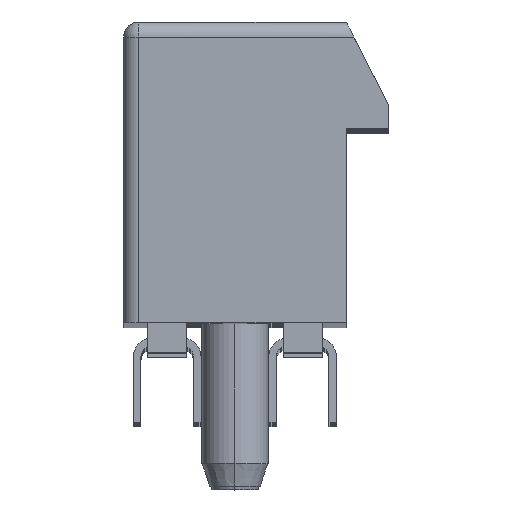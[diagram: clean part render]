
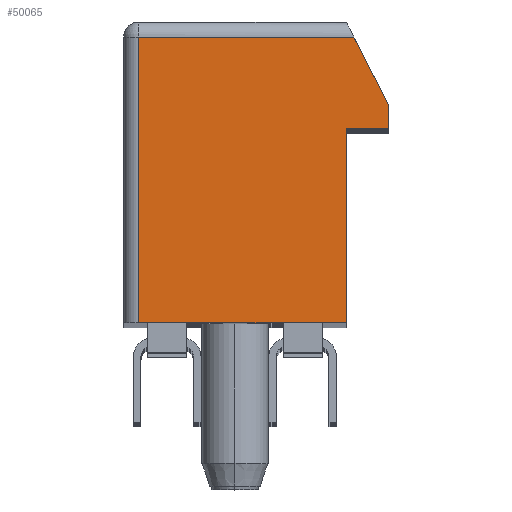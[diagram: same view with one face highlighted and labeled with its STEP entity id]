
A CAD part, top view. The second image highlights one B-rep face of the part: STEP entity #50065.
In plain terms, the highlighted planar face has unit normal (0, 0, 1).
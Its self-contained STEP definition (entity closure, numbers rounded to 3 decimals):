
#439 = LINE ( 'NONE', #8722, #55121 ) ;
#1614 = CARTESIAN_POINT ( 'NONE',  ( -3.2, 0., 89. ) ) ;
#3581 = VERTEX_POINT ( 'NONE', #53765 ) ;
#4085 = ORIENTED_EDGE ( 'NONE', *, *, #23530, .T. ) ;
#4360 = DIRECTION ( 'NONE',  ( -0.454, 0.891, 0. ) ) ;
#4420 = CARTESIAN_POINT ( 'NONE',  ( -3.2, 0., 89. ) ) ;
#5432 = DIRECTION ( 'NONE',  ( -1., 0., 0. ) ) ;
#6430 = VERTEX_POINT ( 'NONE', #14349 ) ;
#6636 = CARTESIAN_POINT ( 'NONE',  ( 0., 0., 89. ) ) ;
#7979 = CARTESIAN_POINT ( 'NONE',  ( 5.1, 6.45, 89. ) ) ;
#8122 = DIRECTION ( 'NONE',  ( 1., 0., 0. ) ) ;
#8413 = ORIENTED_EDGE ( 'NONE', *, *, #45531, .T. ) ;
#8416 = LINE ( 'NONE', #45164, #47309 ) ;
#8570 = VERTEX_POINT ( 'NONE', #7979 ) ;
#8722 = CARTESIAN_POINT ( 'NONE',  ( -3.7, 0., 89. ) ) ;
#9303 = VECTOR ( 'NONE', #56820, 1000. ) ;
#9693 = ORIENTED_EDGE ( 'NONE', *, *, #22394, .T. ) ;
#9765 = DIRECTION ( 'NONE',  ( 0., -1., 0. ) ) ;
#11722 = ORIENTED_EDGE ( 'NONE', *, *, #16820, .T. ) ;
#11954 = PLANE ( 'NONE',  #67655 ) ;
#14349 = CARTESIAN_POINT ( 'NONE',  ( 3.7, 6.45, 89. ) ) ;
#14557 = VECTOR ( 'NONE', #59947, 1000. ) ;
#14995 = CARTESIAN_POINT ( 'NONE',  ( 3.7, 10., 89. ) ) ;
#16820 = EDGE_CURVE ( 'NONE', #60335, #67821, #439, .T. ) ;
#17259 = DIRECTION ( 'NONE',  ( 1., 0., 0. ) ) ;
#18811 = CARTESIAN_POINT ( 'NONE',  ( 3.7, 0., 89. ) ) ;
#19429 = VECTOR ( 'NONE', #9765, 1000. ) ;
#22394 = EDGE_CURVE ( 'NONE', #67821, #6430, #58445, .T. ) ;
#23376 = CARTESIAN_POINT ( 'NONE',  ( -3.2, 9.5, 89. ) ) ;
#23426 = VECTOR ( 'NONE', #5432, 1000. ) ;
#23530 = EDGE_CURVE ( 'NONE', #67323, #29404, #25092, .T. ) ;
#25092 = LINE ( 'NONE', #52897, #23426 ) ;
#25362 = LINE ( 'NONE', #14995, #37789 ) ;
#29404 = VERTEX_POINT ( 'NONE', #23376 ) ;
#35217 = LINE ( 'NONE', #4420, #19429 ) ;
#37789 = VECTOR ( 'NONE', #4360, 1000. ) ;
#38901 = CARTESIAN_POINT ( 'NONE',  ( 3.7, 6.45, 89. ) ) ;
#40657 = DIRECTION ( 'NONE',  ( 1., 0., 0. ) ) ;
#44977 = FACE_OUTER_BOUND ( 'NONE', #53411, .T. ) ;
#45164 = CARTESIAN_POINT ( 'NONE',  ( 5.1, 6.45, 89. ) ) ;
#45531 = EDGE_CURVE ( 'NONE', #6430, #8570, #8416, .T. ) ;
#46153 = CARTESIAN_POINT ( 'NONE',  ( 5.1, 7.25, 89. ) ) ;
#47309 = VECTOR ( 'NONE', #8122, 1000. ) ;
#47574 = EDGE_CURVE ( 'NONE', #3581, #67323, #25362, .T. ) ;
#48903 = EDGE_CURVE ( 'NONE', #29404, #60335, #35217, .T. ) ;
#48983 = DIRECTION ( 'NONE',  ( 0., 0., 1. ) ) ;
#50065 = ADVANCED_FACE ( 'NONE', ( #44977 ), #11954, .T. ) ;
#50424 = EDGE_CURVE ( 'NONE', #8570, #3581, #51555, .T. ) ;
#51555 = LINE ( 'NONE', #46153, #9303 ) ;
#52897 = CARTESIAN_POINT ( 'NONE',  ( -3.7, 9.5, 89. ) ) ;
#53411 = EDGE_LOOP ( 'NONE', ( #4085, #65725, #11722, #9693, #8413, #64735, #61890 ) ) ;
#53765 = CARTESIAN_POINT ( 'NONE',  ( 5.1, 7.25, 89. ) ) ;
#55121 = VECTOR ( 'NONE', #40657, 1000. ) ;
#56820 = DIRECTION ( 'NONE',  ( 0., 1., 0. ) ) ;
#58445 = LINE ( 'NONE', #38901, #14557 ) ;
#59947 = DIRECTION ( 'NONE',  ( 0., 1., 0. ) ) ;
#60335 = VERTEX_POINT ( 'NONE', #1614 ) ;
#61281 = CARTESIAN_POINT ( 'NONE',  ( 3.955, 9.5, 89. ) ) ;
#61890 = ORIENTED_EDGE ( 'NONE', *, *, #47574, .T. ) ;
#64735 = ORIENTED_EDGE ( 'NONE', *, *, #50424, .T. ) ;
#65725 = ORIENTED_EDGE ( 'NONE', *, *, #48903, .T. ) ;
#67323 = VERTEX_POINT ( 'NONE', #61281 ) ;
#67655 = AXIS2_PLACEMENT_3D ( 'NONE', #6636, #48983, #17259 ) ;
#67821 = VERTEX_POINT ( 'NONE', #18811 ) ;
